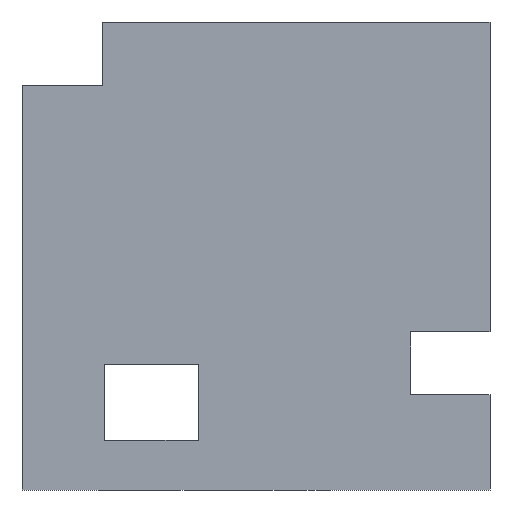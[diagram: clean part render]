
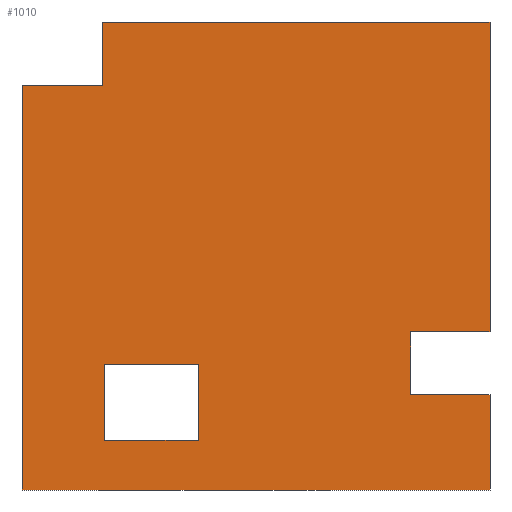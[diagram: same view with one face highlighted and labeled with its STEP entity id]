
A CAD part, front view. The second image highlights one B-rep face of the part: STEP entity #1010.
In plain terms, the highlighted planar face has unit normal (0, -1, 0).
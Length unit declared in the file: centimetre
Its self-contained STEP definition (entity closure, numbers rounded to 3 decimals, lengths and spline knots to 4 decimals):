
#9 = VERTEX_POINT ( 'NONE', #2093 ) ;
#22 = DIRECTION ( 'NONE',  ( 0., 0., -1. ) ) ;
#39 = VECTOR ( 'NONE', #1546, 100. ) ;
#47 = ORIENTED_EDGE ( 'NONE', *, *, #1296, .T. ) ;
#59 = FACE_OUTER_BOUND ( 'NONE', #853, .T. ) ;
#86 = VERTEX_POINT ( 'NONE', #527 ) ;
#89 = CARTESIAN_POINT ( 'NONE',  ( 376.5277, 0., 268.8596 ) ) ;
#91 = EDGE_CURVE ( 'NONE', #2382, #1801, #2165, .T. ) ;
#106 = EDGE_LOOP ( 'NONE', ( #2550, #1471, #1685, #1390 ) ) ;
#115 = ORIENTED_EDGE ( 'NONE', *, *, #2015, .F. ) ;
#120 = CARTESIAN_POINT ( 'NONE',  ( 830.8445, 0., 338.0587 ) ) ;
#124 = VECTOR ( 'NONE', #1512, 100. ) ;
#203 = VERTEX_POINT ( 'NONE', #2540 ) ;
#224 = LINE ( 'NONE', #1428, #1289 ) ;
#247 = VERTEX_POINT ( 'NONE', #89 ) ;
#282 = EDGE_CURVE ( 'NONE', #2066, #86, #352, .T. ) ;
#314 = CARTESIAN_POINT ( 'NONE',  ( 830.8445, 0., 338.0587 ) ) ;
#322 = EDGE_CURVE ( 'NONE', #247, #1190, #683, .T. ) ;
#352 = LINE ( 'NONE', #2164, #1484 ) ;
#396 = ORIENTED_EDGE ( 'NONE', *, *, #91, .T. ) ;
#523 = ORIENTED_EDGE ( 'NONE', *, *, #2342, .F. ) ;
#527 = CARTESIAN_POINT ( 'NONE',  ( 1000., 0., 0. ) ) ;
#545 = CARTESIAN_POINT ( 'NONE',  ( 376.5277, 0., 106.2955 ) ) ;
#560 = ORIENTED_EDGE ( 'NONE', *, *, #1044, .T. ) ;
#605 = CARTESIAN_POINT ( 'NONE',  ( 1000., 0., 1000. ) ) ;
#616 = LINE ( 'NONE', #2289, #671 ) ;
#655 = DIRECTION ( 'NONE',  ( 0., 1., 0. ) ) ;
#671 = VECTOR ( 'NONE', #1420, 100. ) ;
#674 = VECTOR ( 'NONE', #1210, 100. ) ;
#677 = EDGE_CURVE ( 'NONE', #203, #1801, #950, .T. ) ;
#683 = LINE ( 'NONE', #2320, #674 ) ;
#708 = VECTOR ( 'NONE', #2551, 100. ) ;
#747 = LINE ( 'NONE', #2364, #2213 ) ;
#763 = LINE ( 'NONE', #937, #2592 ) ;
#820 = CARTESIAN_POINT ( 'NONE',  ( 171.0187, 0., 1000. ) ) ;
#829 = LINE ( 'NONE', #1647, #2249 ) ;
#853 = EDGE_LOOP ( 'NONE', ( #115, #560, #47, #396, #1917, #2259, #523, #1472, #973, #2117 ) ) ;
#864 = PLANE ( 'NONE',  #1528 ) ;
#878 = EDGE_CURVE ( 'NONE', #925, #2066, #747, .T. ) ;
#886 = LINE ( 'NONE', #1709, #124 ) ;
#906 = DIRECTION ( 'NONE',  ( 1., 0., 0. ) ) ;
#921 = CARTESIAN_POINT ( 'NONE',  ( 830.8445, 0., 203.6914 ) ) ;
#925 = VERTEX_POINT ( 'NONE', #1039 ) ;
#930 = LINE ( 'NONE', #1916, #708 ) ;
#937 = CARTESIAN_POINT ( 'NONE',  ( 830.8445, 0., 203.6914 ) ) ;
#943 = LINE ( 'NONE', #1161, #995 ) ;
#950 = LINE ( 'NONE', #605, #1292 ) ;
#954 = CARTESIAN_POINT ( 'NONE',  ( 171.0187, 0., 864.7488 ) ) ;
#973 = ORIENTED_EDGE ( 'NONE', *, *, #878, .T. ) ;
#995 = VECTOR ( 'NONE', #1988, 100. ) ;
#1010 = ADVANCED_FACE ( 'NONE', ( #2280, #59 ), #864, .F. ) ;
#1029 = VECTOR ( 'NONE', #906, 100. ) ;
#1039 = CARTESIAN_POINT ( 'NONE',  ( 0., 0., 864.7488 ) ) ;
#1044 = EDGE_CURVE ( 'NONE', #1529, #2384, #616, .T. ) ;
#1123 = VECTOR ( 'NONE', #2143, 100. ) ;
#1137 = CARTESIAN_POINT ( 'NONE',  ( 1000., 0., 203.6914 ) ) ;
#1161 = CARTESIAN_POINT ( 'NONE',  ( 376.5277, 0., 106.2955 ) ) ;
#1178 = EDGE_CURVE ( 'NONE', #1190, #9, #886, .T. ) ;
#1190 = VERTEX_POINT ( 'NONE', #2328 ) ;
#1210 = DIRECTION ( 'NONE',  ( -1., 0., 0. ) ) ;
#1213 = EDGE_CURVE ( 'NONE', #2503, #203, #1308, .T. ) ;
#1289 = VECTOR ( 'NONE', #1838, 100. ) ;
#1292 = VECTOR ( 'NONE', #1567, 100. ) ;
#1296 = EDGE_CURVE ( 'NONE', #2384, #2382, #763, .T. ) ;
#1308 = LINE ( 'NONE', #1934, #1123 ) ;
#1390 = ORIENTED_EDGE ( 'NONE', *, *, #2350, .F. ) ;
#1420 = DIRECTION ( 'NONE',  ( -1., 0., 0. ) ) ;
#1428 = CARTESIAN_POINT ( 'NONE',  ( 176.4836, 0., 106.2955 ) ) ;
#1433 = CARTESIAN_POINT ( 'NONE',  ( 171.0187, 0., 864.7488 ) ) ;
#1464 = CARTESIAN_POINT ( 'NONE',  ( 0., 0., 0. ) ) ;
#1466 = VERTEX_POINT ( 'NONE', #1433 ) ;
#1471 = ORIENTED_EDGE ( 'NONE', *, *, #1178, .F. ) ;
#1472 = ORIENTED_EDGE ( 'NONE', *, *, #2142, .F. ) ;
#1484 = VECTOR ( 'NONE', #1572, 100. ) ;
#1512 = DIRECTION ( 'NONE',  ( 0., 0., -1. ) ) ;
#1528 = AXIS2_PLACEMENT_3D ( 'NONE', #2268, #655, #2438 ) ;
#1529 = VERTEX_POINT ( 'NONE', #1137 ) ;
#1546 = DIRECTION ( 'NONE',  ( 0., 0., 1. ) ) ;
#1567 = DIRECTION ( 'NONE',  ( 0., 0., -1. ) ) ;
#1572 = DIRECTION ( 'NONE',  ( 1., 0., 0. ) ) ;
#1647 = CARTESIAN_POINT ( 'NONE',  ( 171.0187, 0., 864.7488 ) ) ;
#1685 = ORIENTED_EDGE ( 'NONE', *, *, #322, .F. ) ;
#1709 = CARTESIAN_POINT ( 'NONE',  ( 176.4836, 0., 106.2955 ) ) ;
#1801 = VERTEX_POINT ( 'NONE', #1945 ) ;
#1838 = DIRECTION ( 'NONE',  ( 1., 0., 0. ) ) ;
#1839 = VERTEX_POINT ( 'NONE', #545 ) ;
#1862 = DIRECTION ( 'NONE',  ( 1., 0., 0. ) ) ;
#1916 = CARTESIAN_POINT ( 'NONE',  ( 1000., 0., 1000. ) ) ;
#1917 = ORIENTED_EDGE ( 'NONE', *, *, #677, .F. ) ;
#1934 = CARTESIAN_POINT ( 'NONE',  ( 0., 0., 1000. ) ) ;
#1943 = EDGE_CURVE ( 'NONE', #9, #1839, #224, .T. ) ;
#1945 = CARTESIAN_POINT ( 'NONE',  ( 1000., 0., 338.0587 ) ) ;
#1988 = DIRECTION ( 'NONE',  ( 0., 0., 1. ) ) ;
#1999 = DIRECTION ( 'NONE',  ( 0., 0., 1. ) ) ;
#2015 = EDGE_CURVE ( 'NONE', #1529, #86, #930, .T. ) ;
#2066 = VERTEX_POINT ( 'NONE', #1464 ) ;
#2093 = CARTESIAN_POINT ( 'NONE',  ( 176.4836, 0., 106.2955 ) ) ;
#2117 = ORIENTED_EDGE ( 'NONE', *, *, #282, .T. ) ;
#2142 = EDGE_CURVE ( 'NONE', #925, #1466, #829, .T. ) ;
#2143 = DIRECTION ( 'NONE',  ( 1., 0., 0. ) ) ;
#2164 = CARTESIAN_POINT ( 'NONE',  ( 0., 0., 0. ) ) ;
#2165 = LINE ( 'NONE', #314, #1029 ) ;
#2213 = VECTOR ( 'NONE', #22, 100. ) ;
#2249 = VECTOR ( 'NONE', #1862, 100. ) ;
#2259 = ORIENTED_EDGE ( 'NONE', *, *, #1213, .F. ) ;
#2268 = CARTESIAN_POINT ( 'NONE',  ( 0., 0., 1000. ) ) ;
#2280 = FACE_BOUND ( 'NONE', #106, .T. ) ;
#2289 = CARTESIAN_POINT ( 'NONE',  ( 830.8445, 0., 203.6914 ) ) ;
#2320 = CARTESIAN_POINT ( 'NONE',  ( 176.4836, 0., 268.8596 ) ) ;
#2328 = CARTESIAN_POINT ( 'NONE',  ( 176.4836, 0., 268.8596 ) ) ;
#2342 = EDGE_CURVE ( 'NONE', #1466, #2503, #2401, .T. ) ;
#2350 = EDGE_CURVE ( 'NONE', #1839, #247, #943, .T. ) ;
#2364 = CARTESIAN_POINT ( 'NONE',  ( 0., 0., 1000. ) ) ;
#2382 = VERTEX_POINT ( 'NONE', #120 ) ;
#2384 = VERTEX_POINT ( 'NONE', #921 ) ;
#2401 = LINE ( 'NONE', #954, #39 ) ;
#2438 = DIRECTION ( 'NONE',  ( 0., 0., 1. ) ) ;
#2503 = VERTEX_POINT ( 'NONE', #820 ) ;
#2540 = CARTESIAN_POINT ( 'NONE',  ( 1000., 0., 1000. ) ) ;
#2550 = ORIENTED_EDGE ( 'NONE', *, *, #1943, .F. ) ;
#2551 = DIRECTION ( 'NONE',  ( 0., 0., -1. ) ) ;
#2592 = VECTOR ( 'NONE', #1999, 100. ) ;
